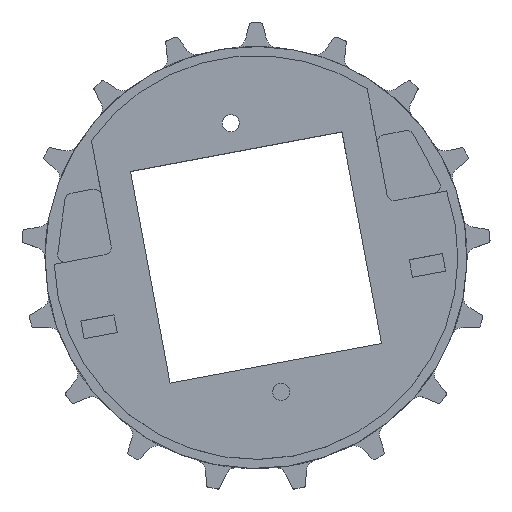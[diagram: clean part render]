
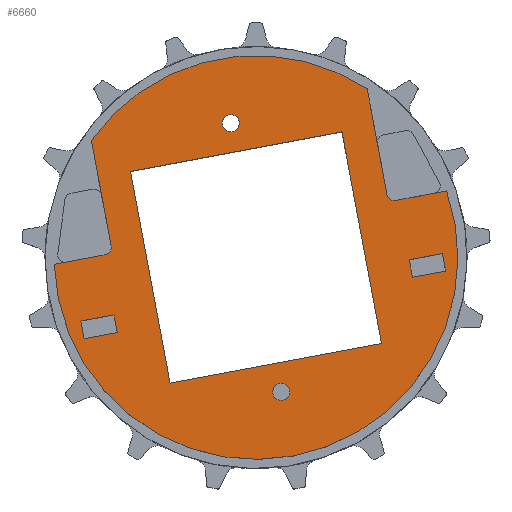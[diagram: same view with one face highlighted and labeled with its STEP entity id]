
A CAD part, top view. The second image highlights one B-rep face of the part: STEP entity #6660.
In plain terms, the highlighted planar face has unit normal (0, 0, 1).
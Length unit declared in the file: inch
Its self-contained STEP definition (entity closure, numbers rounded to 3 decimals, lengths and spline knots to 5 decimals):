
#2191=DIRECTION('',(-0.983,-0.184,0.));
#2192=VECTOR('',#2191,0.85169);
#2193=CARTESIAN_POINT('',(-2.48541,0.04406,0.74));
#2194=LINE('',#2193,#2192);
#2195=CARTESIAN_POINT('',(-2.50838,0.16693,0.74));
#2196=DIRECTION('',(0.,0.,-1.));
#2197=DIRECTION('',(0.983,0.184,0.));
#2198=AXIS2_PLACEMENT_3D('',#2195,#2196,#2197);
#2200=DIRECTION('',(0.184,-0.983,0.));
#2201=VECTOR('',#2200,1.76586);
#2202=CARTESIAN_POINT('',(-2.70999,1.92569,0.74));
#2203=LINE('',#2202,#2201);
#2204=CARTESIAN_POINT('',(0.,0.,0.74));
#2205=DIRECTION('',(0.,0.,1.));
#2206=DIRECTION('',(0.551,0.835,0.));
#2207=AXIS2_PLACEMENT_3D('',#2204,#2205,#2206);
#2209=DIRECTION('',(-0.184,0.983,0.));
#2210=VECTOR('',#2209,1.76586);
#2211=CARTESIAN_POINT('',(2.15582,1.03882,0.74));
#2212=LINE('',#2211,#2210);
#2213=CARTESIAN_POINT('',(2.2787,1.06179,0.74));
#2214=DIRECTION('',(0.,0.,-1.));
#2215=DIRECTION('',(0.184,-0.983,0.));
#2216=AXIS2_PLACEMENT_3D('',#2213,#2214,#2215);
#2218=DIRECTION('',(-0.983,-0.184,0.));
#2219=VECTOR('',#2218,0.85169);
#2220=CARTESIAN_POINT('',(3.13885,1.09541,0.74));
#2221=LINE('',#2220,#2219);
#2222=CARTESIAN_POINT('',(0.,0.,0.74));
#2223=DIRECTION('',(0.,0.,1.));
#2224=DIRECTION('',(-0.999,-0.034,0.));
#2225=AXIS2_PLACEMENT_3D('',#2222,#2223,#2224);
#2227=DIRECTION('',(0.983,0.184,0.));
#2228=VECTOR('',#2227,0.554);
#2229=CARTESIAN_POINT('',(2.57674,-0.32582,0.74));
#2230=LINE('',#2229,#2228);
#2231=DIRECTION('',(-0.184,0.983,0.));
#2232=VECTOR('',#2231,0.29375);
#2233=CARTESIAN_POINT('',(3.12131,-0.22403,0.74));
#2234=LINE('',#2233,#2232);
#2235=DIRECTION('',(-0.983,-0.184,0.));
#2236=VECTOR('',#2235,0.554);
#2237=CARTESIAN_POINT('',(3.06733,0.06472,0.74));
#2238=LINE('',#2237,#2236);
#2239=DIRECTION('',(0.184,-0.983,0.));
#2240=VECTOR('',#2239,0.29375);
#2241=CARTESIAN_POINT('',(2.52277,-0.03707,0.74));
#2242=LINE('',#2241,#2240);
#2243=DIRECTION('',(0.983,0.184,0.));
#2244=VECTOR('',#2243,0.554);
#2245=CARTESIAN_POINT('',(-2.82961,-1.33644,0.74));
#2246=LINE('',#2245,#2244);
#2247=DIRECTION('',(-0.184,0.983,0.));
#2248=VECTOR('',#2247,0.29375);
#2249=CARTESIAN_POINT('',(-2.28504,-1.23465,0.74));
#2250=LINE('',#2249,#2248);
#2251=DIRECTION('',(-0.983,-0.184,0.));
#2252=VECTOR('',#2251,0.554);
#2253=CARTESIAN_POINT('',(-2.33902,-0.9459,0.74));
#2254=LINE('',#2253,#2252);
#2255=DIRECTION('',(0.184,-0.983,0.));
#2256=VECTOR('',#2255,0.29375);
#2257=CARTESIAN_POINT('',(-2.88358,-1.0477,0.74));
#2258=LINE('',#2257,#2256);
#2259=CARTESIAN_POINT('',(-0.41344,2.21169,0.74));
#2260=DIRECTION('',(0.,0.,1.));
#2261=DIRECTION('',(0.983,0.184,0.));
#2262=AXIS2_PLACEMENT_3D('',#2259,#2260,#2261);
#2264=CARTESIAN_POINT('',(-0.41344,2.21169,0.74));
#2265=DIRECTION('',(0.,0.,1.));
#2266=DIRECTION('',(-0.983,-0.184,0.));
#2267=AXIS2_PLACEMENT_3D('',#2264,#2265,#2266);
#2269=CARTESIAN_POINT('',(0.41344,-2.21169,0.74));
#2270=DIRECTION('',(0.,0.,1.));
#2271=DIRECTION('',(0.983,0.184,0.));
#2272=AXIS2_PLACEMENT_3D('',#2269,#2270,#2271);
#2274=CARTESIAN_POINT('',(0.41344,-2.21169,0.74));
#2275=DIRECTION('',(0.,0.,1.));
#2276=DIRECTION('',(-0.983,-0.184,0.));
#2277=AXIS2_PLACEMENT_3D('',#2274,#2275,#2276);
#2279=DIRECTION('',(0.983,0.184,0.));
#2280=VECTOR('',#2279,3.543);
#2281=CARTESIAN_POINT('',(-1.41582,-2.06685,0.74));
#2282=LINE('',#2281,#2280);
#2283=DIRECTION('',(-0.184,0.983,0.));
#2284=VECTOR('',#2283,3.543);
#2285=CARTESIAN_POINT('',(2.06685,-1.41582,0.74));
#2286=LINE('',#2285,#2284);
#2287=DIRECTION('',(-0.983,-0.184,0.));
#2288=VECTOR('',#2287,3.543);
#2289=CARTESIAN_POINT('',(1.41582,2.06685,0.74));
#2290=LINE('',#2289,#2288);
#2291=DIRECTION('',(0.184,-0.983,0.));
#2292=VECTOR('',#2291,3.543);
#2293=CARTESIAN_POINT('',(-2.06685,1.41582,0.74));
#2294=LINE('',#2293,#2292);
#3271=CARTESIAN_POINT('',(-1.41582,-2.06685,0.74));
#3273=VERTEX_POINT('',#3271);
#3275=CARTESIAN_POINT('',(2.06685,-1.41582,0.74));
#3277=VERTEX_POINT('',#3275);
#3279=CARTESIAN_POINT('',(1.41582,2.06685,0.74));
#3281=VERTEX_POINT('',#3279);
#3283=CARTESIAN_POINT('',(-2.06685,1.41582,0.74));
#3285=VERTEX_POINT('',#3283);
#3295=CARTESIAN_POINT('',(-3.3226,-0.11244,0.74));
#3296=CARTESIAN_POINT('',(3.13885,1.09541,0.74));
#3297=VERTEX_POINT('',#3295);
#3298=VERTEX_POINT('',#3296);
#3299=CARTESIAN_POINT('',(1.83135,2.77461,0.74));
#3300=CARTESIAN_POINT('',(-2.70999,1.92569,0.74));
#3301=VERTEX_POINT('',#3299);
#3302=VERTEX_POINT('',#3300);
#3327=CARTESIAN_POINT('',(-2.38551,0.1899,0.74));
#3328=VERTEX_POINT('',#3327);
#3329=CARTESIAN_POINT('',(-2.48541,0.04406,0.74));
#3330=VERTEX_POINT('',#3329);
#3331=CARTESIAN_POINT('',(2.30166,0.93892,0.74));
#3332=VERTEX_POINT('',#3331);
#3333=CARTESIAN_POINT('',(2.15582,1.03882,0.74));
#3334=VERTEX_POINT('',#3333);
#3455=CARTESIAN_POINT('',(2.57674,-0.32582,0.74));
#3456=CARTESIAN_POINT('',(3.12131,-0.22403,0.74));
#3457=VERTEX_POINT('',#3455);
#3458=VERTEX_POINT('',#3456);
#3459=CARTESIAN_POINT('',(3.06733,0.06472,0.74));
#3460=VERTEX_POINT('',#3459);
#3461=CARTESIAN_POINT('',(2.52277,-0.03707,0.74));
#3462=VERTEX_POINT('',#3461);
#3471=CARTESIAN_POINT('',(-2.82961,-1.33644,0.74));
#3472=CARTESIAN_POINT('',(-2.28504,-1.23465,0.74));
#3473=VERTEX_POINT('',#3471);
#3474=VERTEX_POINT('',#3472);
#3475=CARTESIAN_POINT('',(-2.33902,-0.9459,0.74));
#3476=VERTEX_POINT('',#3475);
#3477=CARTESIAN_POINT('',(-2.88358,-1.0477,0.74));
#3478=VERTEX_POINT('',#3477);
#3587=CARTESIAN_POINT('',(-0.27533,2.23751,0.74));
#3588=CARTESIAN_POINT('',(-0.55154,2.18587,0.74));
#3589=VERTEX_POINT('',#3587);
#3590=VERTEX_POINT('',#3588);
#3595=CARTESIAN_POINT('',(0.55154,-2.18587,0.74));
#3596=CARTESIAN_POINT('',(0.27533,-2.23751,0.74));
#3597=VERTEX_POINT('',#3595);
#3598=VERTEX_POINT('',#3596);
#6601=CARTESIAN_POINT('',(0.,0.,0.74));
#6602=DIRECTION('',(0.,0.,1.));
#6603=DIRECTION('',(0.983,0.184,0.));
#6604=AXIS2_PLACEMENT_3D('',#6601,#6602,#6603);
#6605=PLANE('',#6604);
#6606=ORIENTED_EDGE('',*,*,#6500,.F.);
#6607=ORIENTED_EDGE('',*,*,#6470,.F.);
#6608=ORIENTED_EDGE('',*,*,#6437,.F.);
#6610=ORIENTED_EDGE('',*,*,#6609,.F.);
#6611=ORIENTED_EDGE('',*,*,#6304,.F.);
#6612=ORIENTED_EDGE('',*,*,#6273,.F.);
#6613=ORIENTED_EDGE('',*,*,#6227,.F.);
#6615=ORIENTED_EDGE('',*,*,#6614,.F.);
#6616=EDGE_LOOP('',(#6606,#6607,#6608,#6610,#6611,#6612,#6613,#6615));
#6617=FACE_OUTER_BOUND('',#6616,.F.);
#6619=ORIENTED_EDGE('',*,*,#6618,.T.);
#6621=ORIENTED_EDGE('',*,*,#6620,.T.);
#6623=ORIENTED_EDGE('',*,*,#6622,.T.);
#6625=ORIENTED_EDGE('',*,*,#6624,.T.);
#6626=EDGE_LOOP('',(#6619,#6621,#6623,#6625));
#6627=FACE_BOUND('',#6626,.F.);
#6629=ORIENTED_EDGE('',*,*,#6628,.T.);
#6631=ORIENTED_EDGE('',*,*,#6630,.T.);
#6633=ORIENTED_EDGE('',*,*,#6632,.T.);
#6635=ORIENTED_EDGE('',*,*,#6634,.T.);
#6636=EDGE_LOOP('',(#6629,#6631,#6633,#6635));
#6637=FACE_BOUND('',#6636,.F.);
#6639=ORIENTED_EDGE('',*,*,#6638,.T.);
#6641=ORIENTED_EDGE('',*,*,#6640,.T.);
#6642=EDGE_LOOP('',(#6639,#6641));
#6643=FACE_BOUND('',#6642,.F.);
#6645=ORIENTED_EDGE('',*,*,#6644,.T.);
#6647=ORIENTED_EDGE('',*,*,#6646,.T.);
#6648=EDGE_LOOP('',(#6645,#6647));
#6649=FACE_BOUND('',#6648,.F.);
#6651=ORIENTED_EDGE('',*,*,#6650,.T.);
#6653=ORIENTED_EDGE('',*,*,#6652,.T.);
#6655=ORIENTED_EDGE('',*,*,#6654,.T.);
#6657=ORIENTED_EDGE('',*,*,#6656,.T.);
#6658=EDGE_LOOP('',(#6651,#6653,#6655,#6657));
#6659=FACE_BOUND('',#6658,.F.);
#6660=ADVANCED_FACE('',(#6617,#6627,#6637,#6643,#6649,#6659),#6605,.T.);
#2199=CIRCLE('',#2198,0.125);
#2208=CIRCLE('',#2207,3.3245);
#2217=CIRCLE('',#2216,0.125);
#2226=CIRCLE('',#2225,3.3245);
#2263=CIRCLE('',#2262,0.1405);
#2268=CIRCLE('',#2267,0.1405);
#2273=CIRCLE('',#2272,0.1405);
#2278=CIRCLE('',#2277,0.1405);
#6227=EDGE_CURVE('',#3298,#3332,#2221,.T.);
#6273=EDGE_CURVE('',#3332,#3334,#2217,.T.);
#6304=EDGE_CURVE('',#3334,#3301,#2212,.T.);
#6437=EDGE_CURVE('',#3302,#3328,#2203,.T.);
#6470=EDGE_CURVE('',#3328,#3330,#2199,.T.);
#6500=EDGE_CURVE('',#3330,#3297,#2194,.T.);
#6609=EDGE_CURVE('',#3301,#3302,#2208,.T.);
#6614=EDGE_CURVE('',#3297,#3298,#2226,.T.);
#6618=EDGE_CURVE('',#3457,#3458,#2230,.T.);
#6620=EDGE_CURVE('',#3458,#3460,#2234,.T.);
#6622=EDGE_CURVE('',#3460,#3462,#2238,.T.);
#6624=EDGE_CURVE('',#3462,#3457,#2242,.T.);
#6628=EDGE_CURVE('',#3473,#3474,#2246,.T.);
#6630=EDGE_CURVE('',#3474,#3476,#2250,.T.);
#6632=EDGE_CURVE('',#3476,#3478,#2254,.T.);
#6634=EDGE_CURVE('',#3478,#3473,#2258,.T.);
#6638=EDGE_CURVE('',#3589,#3590,#2263,.T.);
#6640=EDGE_CURVE('',#3590,#3589,#2268,.T.);
#6644=EDGE_CURVE('',#3597,#3598,#2273,.T.);
#6646=EDGE_CURVE('',#3598,#3597,#2278,.T.);
#6650=EDGE_CURVE('',#3273,#3277,#2282,.T.);
#6652=EDGE_CURVE('',#3277,#3281,#2286,.T.);
#6654=EDGE_CURVE('',#3281,#3285,#2290,.T.);
#6656=EDGE_CURVE('',#3285,#3273,#2294,.T.);
